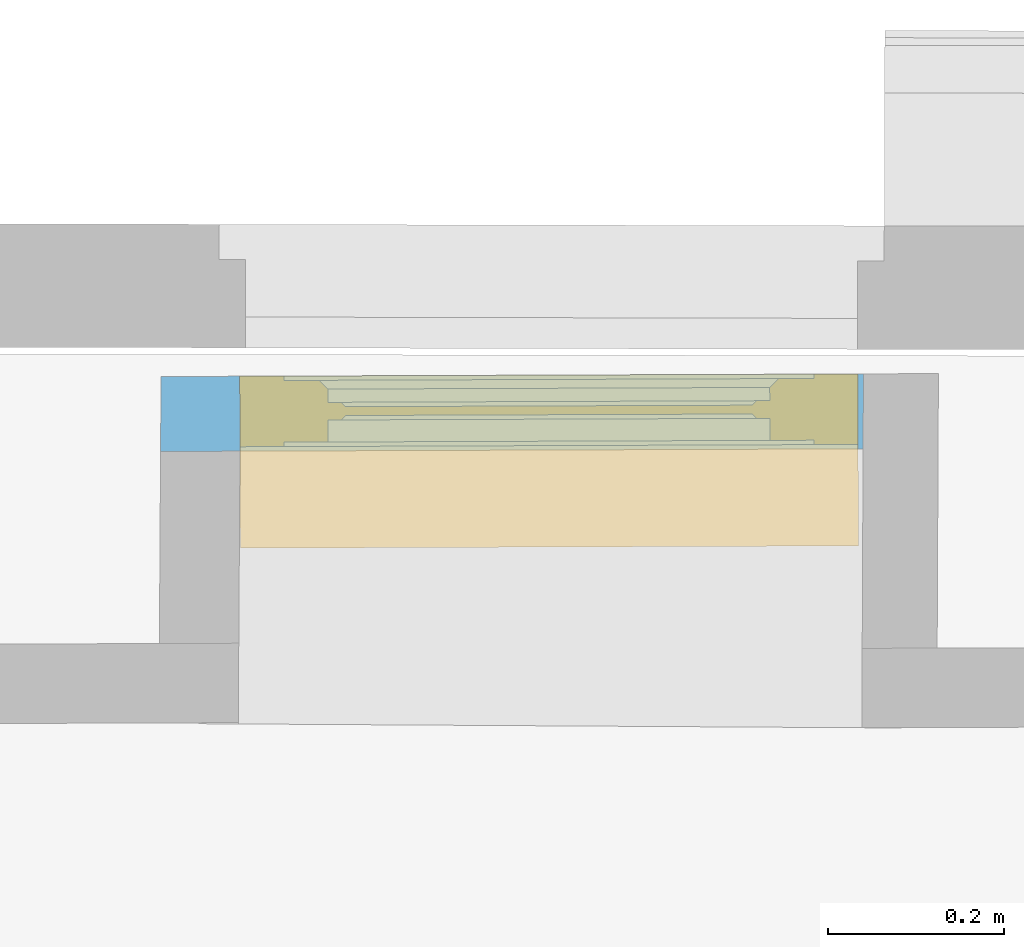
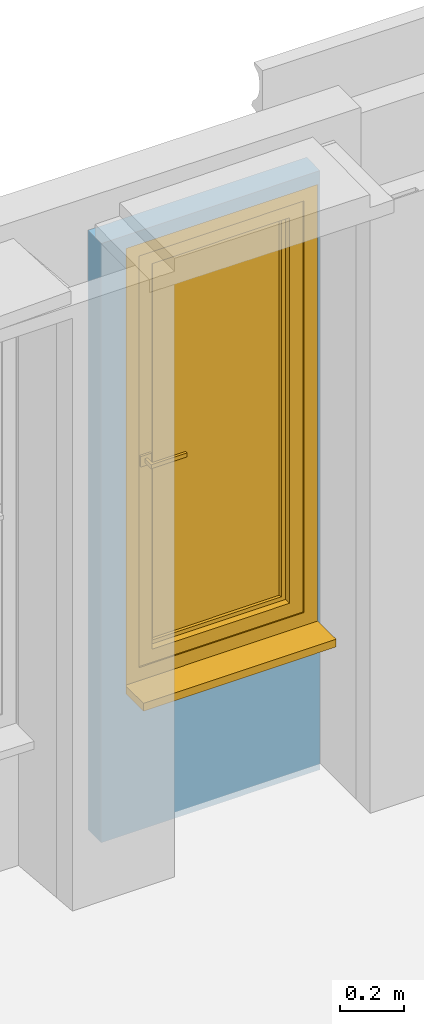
# One storey, part 61 of 72: 1 window, 1 opening, plus 1 element that does not belong to this part.
"""IFC2X3 building model written with IfcOpenShell, lengths in centimetres."""

from ifc_helpers import new_model, entity, si_unit, converted_unit, direction, frame, origin, origin_with_axes, place, context, subcontext, project, spatial, polyline, outline, extrude, faceted_brep, shape, material, material_list, layer, layer_set, layer_usage, type_object, element, fill, save


model = new_model("IFC2X3")

# Units and contexts
model_context = context("Model", 3, precision=0.0001, world=origin(), true_north=direction((0.225632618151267, 0.974212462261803, 0.0)))
body_context = subcontext(model_context, "Body", "Model", "MODEL_VIEW")
footprint_context = subcontext(model_context, "FootPrint", "Model", "MODEL_VIEW")
profile_context = subcontext(model_context, "Profile", "Model", "MODEL_VIEW")
ifc_project = project(units=[si_unit("LENGTHUNIT", "METRE", prefix="CENTI"), si_unit("AREAUNIT", "SQUARE_METRE", prefix="CENTI"), si_unit("VOLUMEUNIT", "CUBIC_METRE", prefix="CENTI"), converted_unit("PLANEANGLEUNIT", "DEGREE", entity("IfcRatioMeasure", 0.0174532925), si_unit("PLANEANGLEUNIT", "RADIAN"), dimensions=[0, 0, 0, 0, 0, 0, 0])], contexts=[model_context])

# Site, building, storey
site_placement = place(None, origin_with_axes())
site = spatial("IfcSite", under=ifc_project, at=site_placement, Name="Default Site", CompositionType="ELEMENT")
building_placement = place(site_placement, origin_with_axes())
building = spatial("IfcBuilding", under=site, at=building_placement, Name="Default Building", CompositionType="ELEMENT")
storey_placement = place(building_placement, frame((0.0, 0.0, 853.910374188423), z_axis=(0.0, 0.0, 1.0), x_axis=(1.0, 0.0, 0.0)))
storey = spatial("IfcBuildingStorey", under=building, at=storey_placement, Name="Niveau 2", CompositionType="ELEMENT", Elevation=853.910374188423)

# Wall, opening, window
ifc_material_1 = material(Name="<aucun>")
ifc_layer = layer(ifc_material_1, 8.5)
ifc_layer_set = layer_set([ifc_layer], Name="default")
ifc_layer_usage = layer_usage(ifc_layer_set, "AXIS2", "POSITIVE", -4.25)
wall_type = type_object("IfcWallType", Name="default 85", PredefinedType="NOTDEFINED", material=ifc_layer_set)
wall_placement = place(storey_placement, frame((-185.212657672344, 590.10289296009, 1.4210854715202e-12), z_axis=(0.0, 0.0, 1.0), x_axis=(0.999993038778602, 0.00373127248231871, 0.0)))
wall = element("IfcWallStandardCase", 1, at=wall_placement, inside=storey, type_object=wall_type, material=ifc_layer_usage, Name="Enveloppe 164347", context=body_context, shape_type="SweptSolid", body=[
    extrude(outline(polyline([(-6.86392508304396, -4.24999999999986), (72.7785545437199, -4.24999999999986), (72.8490777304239, 4.25000000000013), (-6.77937121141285, 4.24999999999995), (-6.86392508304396, -4.24999999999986)])), frame((0.0, 0.0, -5.32907051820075e-13), z_axis=(0.0, 0.0, 1.0), x_axis=(1.0, 0.0, 0.0)), (0.0, 0.0, 1.0), 230.0),
])
opening_placement = place(wall_placement, frame((2.13652019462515, 0.0, 56.9999999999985), z_axis=(0.0, 0.0, 1.0), x_axis=(-1.0, 1.14491749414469e-16, 0.0)))
cartesian_point_1 = entity("IfcCartesianPoint", [0.0, -8.88178419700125e-14, 168.0])
cartesian_point_2 = entity("IfcCartesianPoint", [-70.0844428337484, -4.25000000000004])
opening = element("IfcOpeningElement", 2, at=opening_placement, cuts=wall, Name="4294966437_11", ObjectType="Opening", shapes=[
    shape(body_context, "Body", "SweptSolid", [extrude(outline(polyline([(0.0, 168.0), (0.0, -2.99999999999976), (70.0844428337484, -2.99999999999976), (70.0844428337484, 168.0), (0.0, 168.0)])), frame((0.0, -14.25, 0.0), z_axis=(0.0, 1.0, 0.0), x_axis=(-1.0, 0.0, 0.0)), (0.0, 0.0, 1.0), 28.5)]),
    shape(profile_context, "Profile", "GeometricCurveSet", [entity("IfcGeometricCurveSet", [entity("IfcPolyline", [cartesian_point_1, entity("IfcCartesianPoint", [0.0, -8.88178419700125e-14, 1.77635683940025e-13]), entity("IfcCartesianPoint", [-70.0844428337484, -8.88178419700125e-14, 1.77635683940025e-13]), entity("IfcCartesianPoint", [-70.0844428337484, -8.88178419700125e-14, 168.0]), cartesian_point_1])])]),
    shape(footprint_context, "FootPrint", "GeometricCurveSet", [entity("IfcGeometricCurveSet", [entity("IfcPolyline", [cartesian_point_2, entity("IfcCartesianPoint", [0.0, -4.25000000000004]), entity("IfcCartesianPoint", [0.0, 4.24999999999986]), entity("IfcCartesianPoint", [-70.0844428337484, 4.24999999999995]), cartesian_point_2])])]),
])
ifc_material_2 = material(Name="Transparent")
ifc_material_3 = material(Name="Jaune 255-255-0")
ifc_material_4 = material(Name="Brèche oniciata")
ifc_material_5 = material(Name="Aluminium satiné")
ifc_material_list = material_list([ifc_material_2, ifc_material_3, ifc_material_4, ifc_material_5])
window_style = type_object("IfcWindowStyle", Name="FN[R] 1VB[1V]", ConstructionType="NOTDEFINED", OperationType="SINGLE_PANEL", ParameterTakesPrecedence=True, Sizeable=False, material=ifc_material_list)
window_placement = place(opening_placement, frame((-70.0844428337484, -4.25000000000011, 0.0), z_axis=(0.0, 0.0, 1.0), x_axis=(1.0, 0.0, 0.0)))
window = element("IfcWindow", 3, at=window_placement, inside=storey, type_object=window_style, material=ifc_material_list, Name="Fenêtre 164477", OverallHeight=168.0, OverallWidth=70.0844428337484, context=body_context, shape_type="Brep", body=[
    faceted_brep([(2.82361620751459e-06, 1.3559235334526e-05, 4.14609914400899e-05), (70.0844426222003, 6.91508859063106e-06, 4.14609914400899e-05), (70.0844488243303, 8.50002219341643, 4.14609914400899e-05), (70.0844371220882, 19.5000167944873, 4.14609914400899e-05), (-2.67649595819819e-06, 19.5000234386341, 4.14609914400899e-05), (-3.07302072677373e-06, 8.4999811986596, 4.14609914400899e-05), (-3.07302072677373e-06, 8.4999811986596, -3.00002720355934), (-2.67649595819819e-06, 19.5000234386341, -3.00002720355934), (70.0844371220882, 19.5000167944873, -3.00002720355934), (70.0844488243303, 8.50002219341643, -3.00002720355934), (70.0844426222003, 6.91508859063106e-06, -3.00002720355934), (2.82361620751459e-06, 1.3559235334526e-05, -3.00002720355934), (-3.07280726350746e-06, 19.5000234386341, 4.14609914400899e-05), (-3.07280726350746e-06, 19.5000234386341, -3.00002720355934), (70.0844371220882, 19.500023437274, 4.14609914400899e-05), (70.0844371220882, 19.500023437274, -3.00002720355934), (70.0844371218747, 8.50002219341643, 4.14609914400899e-05), (70.0844371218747, 8.50002219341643, -3.00002720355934), (70.0844488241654, 6.9150885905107e-06, 4.14609914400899e-05), (70.0844488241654, 6.9150885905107e-06, -3.00002720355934), (2.82361620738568e-06, 6.9164486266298e-06, 4.14609914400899e-05), (2.82361620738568e-06, 6.9164486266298e-06, -3.00002720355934), (2.82378115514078e-06, 8.4999811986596, 4.14609914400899e-05), (2.82378115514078e-06, 8.4999811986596, -3.00002720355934)], [[[0, 1, 2, 3, 4, 5]], [[6, 7, 8, 9, 10, 11]], [[5, 12, 13, 6]], [[4, 14, 15, 7]], [[3, 16, 17, 8]], [[2, 18, 19, 9]], [[1, 20, 21, 10]], [[0, 22, 23, 11]]]),
    faceted_brep([(4.99999927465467, 7.99999991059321, 162.999999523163), (4.99999927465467, 8.94071490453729e-08, 162.999999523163), (4.99999927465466, 8.94071490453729e-08, 5.00000007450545), (4.99999927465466, 7.99999991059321, 5.00000007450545), (1.0627940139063e-06, 8.94071497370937e-08, 167.999994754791), (1.0627940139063e-06, 8.94071497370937e-08, -1.77635683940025e-13), (4.99999927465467, 8.94071490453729e-08, 5.00000007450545), (1.0627940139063e-06, 8.94071490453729e-08, 167.999994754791), (1.06279401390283e-06, 7.99999991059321, 167.999994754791), (1.0627940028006e-06, 7.99999991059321, -1.77635683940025e-13), (1.06279400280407e-06, 8.94071490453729e-08, -1.77635683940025e-13), (1.0627940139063e-06, 7.99999991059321, 167.999994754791), (4.99999927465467, 7.99999991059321, 5.00000007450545), (1.0627940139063e-06, 7.99999991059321, -1.77635683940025e-13), (65.0844435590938, 8.94071490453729e-08, 5.00000007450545), (65.0844435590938, 7.99999991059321, 5.00000007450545), (70.0844417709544, 8.94071414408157e-08, -1.77635683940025e-13), (65.0844435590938, 8.94071419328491e-08, 5.00000007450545), (1.0627940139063e-06, 8.94071490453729e-08, -1.77635683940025e-13), (70.0844417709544, 7.99999991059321, -1.77635683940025e-13), (70.0844417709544, 8.94071490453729e-08, -1.77635683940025e-13), (65.0844435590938, 8.94071490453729e-08, 162.999999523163), (65.0844435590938, 7.99999991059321, 162.999999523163), (70.0844417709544, 8.94071483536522e-08, -1.77635683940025e-13), (70.0844417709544, 8.94071483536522e-08, 167.999994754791), (70.0844417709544, 7.99999991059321, 167.999994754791), (70.0844417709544, 8.94071490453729e-08, 167.999994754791), (65.0844435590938, 7.99999991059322, 5.00000007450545), (65.0844435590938, 7.99999991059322, 162.999999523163), (70.0844417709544, 8.94071483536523e-08, 167.999994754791), (1.0627940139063e-06, 8.94071566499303e-08, 167.999994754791), (4.99999927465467, 8.94071561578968e-08, 162.999999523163), (4.99999927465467, 7.99999991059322, 162.999999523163), (1.0627940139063e-06, 7.99999991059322, 167.999994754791)], [[[0, 1, 2, 3]], [[1, 4, 5, 6]], [[7, 8, 9, 10]], [[11, 0, 12, 13]], [[12, 6, 14, 15]], [[6, 5, 16, 17]], [[18, 13, 19, 20]], [[13, 12, 15, 19]], [[15, 14, 21, 22]], [[14, 23, 24, 21]], [[20, 19, 25, 26]], [[19, 27, 28, 25]], [[22, 21, 1, 0]], [[21, 29, 30, 31]], [[26, 25, 11, 7]], [[25, 28, 32, 33]]]),
    faceted_brep([(10.0000004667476, 7.50000001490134, 158.000004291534), (10.0000004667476, 1.49999996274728, 158.000004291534), (10.0000004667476, 1.49999996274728, 10.0000001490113), (10.0000004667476, 7.50000001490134, 10.0000001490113), (9.0000009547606, 0.500000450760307, 159.00000333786), (9.00000095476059, 0.500000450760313, 9.00000035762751), (9.00000142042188, 0.499999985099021, 159.00000333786), (4.99999927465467, 0.499999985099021, 162.999999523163), (4.99999927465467, 0.499999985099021, 5.00000007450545), (9.00000142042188, 0.499999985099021, 9.00000035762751), (4.99999927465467, 7.50000001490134, 162.999999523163), (4.99999927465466, 7.50000001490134, 5.00000007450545), (4.99999927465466, 0.499999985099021, 5.00000007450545), (4.99999927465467, 7.50000001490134, 5.00000007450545), (60.0844423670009, 1.49999996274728, 10.0000001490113), (60.0844423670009, 7.50000001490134, 10.0000001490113), (9.00000142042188, 0.500000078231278, 9.00000026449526), (61.0844414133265, 0.500000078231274, 9.00000026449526), (60.0844423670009, 1.49999996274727, 10.0000001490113), (65.0844435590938, 0.499999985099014, 5.00000007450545), (61.0844414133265, 0.499999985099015, 9.00000035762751), (65.0844435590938, 7.50000001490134, 5.00000007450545), (65.0844435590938, 0.499999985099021, 5.00000007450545), (60.0844423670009, 1.49999996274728, 158.000004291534), (60.0844423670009, 7.50000001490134, 158.000004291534), (61.0844418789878, 0.500000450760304, 9.00000035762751), (61.0844418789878, 0.500000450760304, 159.00000333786), (61.0844414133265, 0.499999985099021, 9.00000035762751), (65.0844435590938, 0.499999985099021, 162.999999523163), (61.0844414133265, 0.499999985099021, 159.00000333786), (65.0844435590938, 7.50000001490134, 162.999999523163), (61.0844414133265, 0.500000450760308, 159.000003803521), (9.00000142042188, 0.500000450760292, 159.000003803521), (10.0000004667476, 1.49999996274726, 158.000004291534), (4.99999927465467, 0.499999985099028, 162.999999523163), (9.00000142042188, 0.499999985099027, 159.00000333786), (10.0000004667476, 7.50000001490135, 158.000004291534), (4.99999927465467, 7.50000001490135, 162.999999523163)], [[[0, 1, 2, 3]], [[1, 4, 5, 2]], [[6, 7, 8, 9]], [[7, 10, 11, 12]], [[10, 0, 3, 13]], [[3, 2, 14, 15]], [[2, 16, 17, 18]], [[9, 8, 19, 20]], [[8, 13, 21, 22]], [[13, 3, 15, 21]], [[15, 14, 23, 24]], [[14, 25, 26, 23]], [[27, 22, 28, 29]], [[22, 21, 30, 28]], [[21, 15, 24, 30]], [[24, 23, 1, 0]], [[23, 31, 32, 33]], [[29, 28, 34, 35]], [[28, 30, 10, 7]], [[30, 24, 36, 37]]]),
    faceted_brep([(64.5844440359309, 7.50000001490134, 86.0000014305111), (60.5844418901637, 7.50000001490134, 86.0000014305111), (60.5844418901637, 7.50000001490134, 81.9999992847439), (64.5844440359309, 7.50000001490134, 81.9999992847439), (64.5844440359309, 8.30000014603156, 81.9999992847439), (60.5844418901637, 8.30000014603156, 81.9999992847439), (60.5844418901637, 8.30000014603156, 86.0000014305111), (64.5844440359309, 8.30000014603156, 86.0000014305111)], [[[0, 1, 2, 3]], [[4, 5, 6, 7]], [[3, 2, 5, 4]], [[2, 1, 6, 5]], [[1, 0, 7, 6]], [[0, 3, 4, 7]]]),
    faceted_brep([(63.0844424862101, 8.30000014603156, 84.750002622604), (62.0844434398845, 8.30000014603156, 84.750002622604), (62.0844434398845, 8.30000014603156, 83.249998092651), (63.0844424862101, 8.30000014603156, 83.249998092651), (63.0844424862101, 12.2999996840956, 83.249998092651), (62.0844430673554, 11.3000002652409, 83.249998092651), (62.0844430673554, 11.3000002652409, 84.750002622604), (63.0844424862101, 12.2999996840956, 84.750002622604), (62.0844434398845, 11.2999998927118, 83.249998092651), (62.0844434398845, 11.2999998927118, 84.750002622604)], [[[0, 1, 2, 3]], [[4, 5, 6, 7]], [[3, 2, 8, 4]], [[2, 1, 9, 8]], [[1, 0, 7, 9]], [[0, 3, 4, 7]]]),
    faceted_brep([(63.0844424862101, 12.2999996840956, 84.750002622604), (62.0844430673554, 11.3000002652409, 84.750002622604), (62.0844430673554, 11.3000002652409, 83.249998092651), (63.0844424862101, 12.2999996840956, 83.249998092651), (50.0844429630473, 12.2999996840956, 83.249998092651), (50.0844429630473, 11.2999998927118, 83.249998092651), (50.0844429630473, 11.2999998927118, 84.750002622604), (50.0844429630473, 12.2999996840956, 84.750002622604), (62.0844434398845, 11.2999998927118, 83.249998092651), (62.0844434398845, 11.2999998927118, 84.750002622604)], [[[0, 1, 2, 3]], [[4, 5, 6, 7]], [[3, 8, 5, 4]], [[8, 9, 6, 5]], [[9, 0, 7, 6]], [[0, 3, 4, 7]]]),
    faceted_brep([(11.5000005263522, 4.99999997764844, 156.500005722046), (12.0000002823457, 4.50000022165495, 155.999994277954), (12.0000002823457, 4.50000022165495, 11.9999997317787), (11.5000005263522, 4.99999997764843, 11.5000002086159), (12.000000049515, 4.49999998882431, 155.999994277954), (12.000000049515, 3.50000001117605, 155.999994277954), (12.000000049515, 3.50000001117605, 11.9999997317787), (12.000000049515, 4.49999998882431, 11.9999997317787), (11.5000002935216, 3.00000025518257, 156.500005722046), (11.5000002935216, 3.00000025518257, 11.5000002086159), (12.000000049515, 3.50000001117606, 11.9999997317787), (11.5000005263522, 3.00000002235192, 156.500005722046), (10.0000004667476, 3.00000002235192, 158.000004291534), (10.0000004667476, 3.00000002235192, 10.0000001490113), (11.5000005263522, 3.00000002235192, 11.5000002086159), (10.0000004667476, 4.99999997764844, 158.000004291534), (10.0000004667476, 4.99999997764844, 10.0000001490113), (11.5000005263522, 4.99999997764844, 11.5000002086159), (12.000000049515, 4.50000022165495, 11.9999999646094), (58.0844427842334, 4.50000022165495, 11.9999999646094), (58.5844423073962, 4.99999997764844, 11.5000002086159), (58.0844427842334, 3.50000001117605, 11.9999997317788), (58.0844427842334, 4.49999998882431, 11.9999997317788), (11.5000005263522, 3.00000025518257, 11.4999999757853), (58.5844423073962, 3.00000025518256, 11.4999999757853), (58.0844427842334, 3.50000001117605, 11.9999997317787), (60.0844423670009, 3.00000002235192, 10.0000001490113), (58.5844423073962, 3.00000002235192, 11.5000002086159), (60.0844423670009, 4.99999997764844, 10.0000001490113), (58.5844423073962, 4.99999997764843, 11.5000002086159), (60.0844423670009, 4.99999997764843, 10.0000001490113), (58.0844425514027, 4.50000022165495, 11.9999997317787), (58.0844425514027, 4.50000022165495, 155.999994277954), (58.5844423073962, 4.99999997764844, 156.500005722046), (58.0844427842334, 4.49999998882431, 11.9999997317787), (58.0844427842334, 3.50000001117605, 155.999994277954), (58.0844427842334, 4.49999998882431, 155.999994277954), (58.5844425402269, 3.00000025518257, 11.5000002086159), (58.5844425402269, 3.00000025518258, 156.500005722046), (58.0844427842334, 3.50000001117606, 155.999994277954), (60.0844423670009, 3.00000002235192, 158.000004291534), (58.5844423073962, 3.00000002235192, 156.500005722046), (60.0844423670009, 4.99999997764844, 158.000004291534), (58.0844427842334, 4.49999426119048, 156.000000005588), (12.000000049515, 4.49999426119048, 156.000000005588), (58.5844423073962, 2.9999942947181, 156.499999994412), (11.5000005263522, 2.9999942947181, 156.499999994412), (10.0000004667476, 3.00000002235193, 158.000004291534), (11.5000005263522, 3.00000002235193, 156.500005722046), (11.5000005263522, 4.99999997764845, 156.500005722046), (10.0000004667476, 4.99999997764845, 158.000004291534)], [[[0, 1, 2, 3]], [[4, 5, 6, 7]], [[5, 8, 9, 10]], [[11, 12, 13, 14]], [[12, 15, 16, 13]], [[15, 0, 17, 16]], [[17, 18, 19, 20]], [[7, 6, 21, 22]], [[6, 23, 24, 25]], [[14, 13, 26, 27]], [[13, 16, 28, 26]], [[16, 17, 29, 30]], [[20, 31, 32, 33]], [[34, 25, 35, 36]], [[25, 37, 38, 39]], [[27, 26, 40, 41]], [[26, 28, 42, 40]], [[28, 20, 33, 42]], [[33, 43, 44, 0]], [[36, 35, 5, 4]], [[35, 45, 46, 5]], [[41, 40, 47, 48]], [[40, 42, 15, 12]], [[42, 33, 49, 50]]]),
    faceted_brep([(58.0844427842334, 4.49999998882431, 155.999994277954), (58.0844427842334, 4.49999998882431, 11.9999997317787), (12.000000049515, 4.49999998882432, 11.9999997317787), (12.000000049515, 4.49999998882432, 155.999994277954), (12.000000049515, 3.50000001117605, 155.999994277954), (12.000000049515, 3.50000001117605, 11.9999997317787), (58.0844427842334, 3.50000001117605, 11.9999997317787), (58.0844427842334, 3.50000001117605, 155.999994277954), (12.000000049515, 4.49999998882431, 155.999994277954), (12.000000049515, 4.49999998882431, 11.9999997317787)], [[[0, 1, 2, 3]], [[4, 5, 6, 7]], [[8, 9, 5, 4]], [[9, 1, 6, 5]], [[1, 0, 7, 6]], [[0, 8, 4, 7]]]),
])
fill(opening, window)

save(model, "model.ifc")
